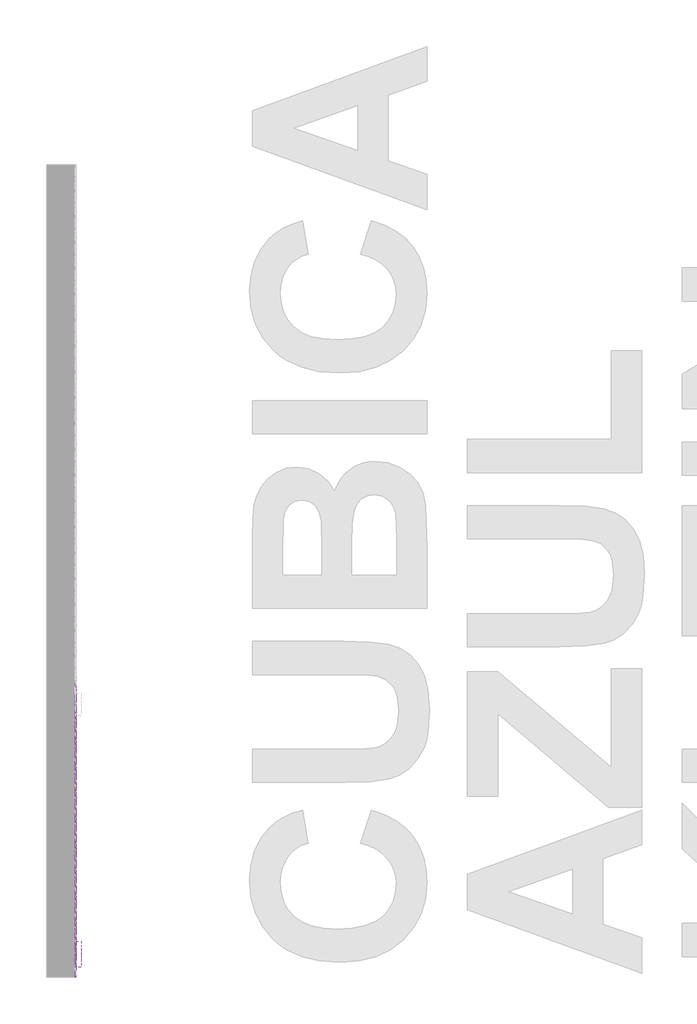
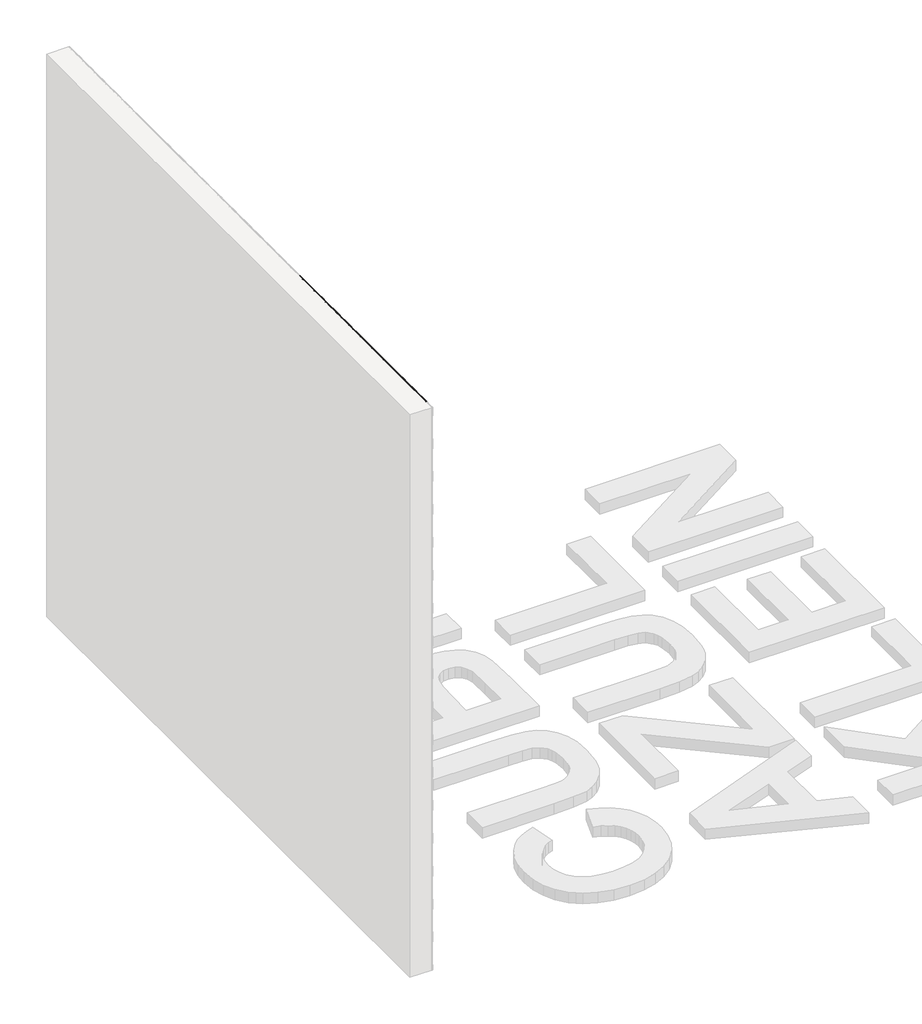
# One storey, part 33 of 121: 128 proxies.
"""IFC4 building model written with IfcOpenShell, lengths in millimetres."""

from ifc_helpers import new_model, si_unit, frame, origin, place, context, project, spatial, polyline, outline, extrude, transform, mapped, element, save
from components import generic_models_b2b2c5c1, generic_models_9bf73f6f, generic_models_5d175859, generic_models_65d4feed, generic_models_3c364290, generic_models_b652511d

model = new_model("IFC4")

# Units and contexts
model_context = context("Model", 3, world=origin())
ifc_project = project(units=[si_unit("LENGTHUNIT", "METRE", prefix="MILLI")], contexts=[model_context])

# Site, building, storey
site = spatial("IfcSite", under=ifc_project)
building = spatial("IfcBuilding", under=site)
storey = spatial("IfcBuildingStorey", under=building, Name="PORTOBELLO - SHOWROOM", Elevation=0.0)

# Proxies
placement = place(None, origin())
generic_models_shape = generic_models_b2b2c5c1(model_context)
element("IfcBuildingElementProxy", 1, Name="PBSHOP - CUBICA AZUL KLEIN 4,8X8,3 : CUBICA AZUL KLEIN - POSIÇÃO 01", ObjectType="PBSHOP - CUBICA AZUL KLEIN 4,8X8,3 : CUBICA AZUL KLEIN - POSIÇÃO 01", at=placement, inside=storey, context=model_context, shape_type="MappedRepresentation", body=[
    mapped(generic_models_shape, transform((150369.5341846, 1086.6189765, 39.4221668), x_axis=(0.0, 1.0, 0.0), y_axis=(0.0, 0.0, 1.0), z_axis=(1.0, 0.0, 0.0))),
])
element("IfcBuildingElementProxy", 2, Name="PBSHOP - CUBICA AZUL KLEIN 4,8X8,3 : CUBICA AZUL KLEIN - POSIÇÃO 01", ObjectType="PBSHOP - CUBICA AZUL KLEIN 4,8X8,3 : CUBICA AZUL KLEIN - POSIÇÃO 01", at=placement, inside=storey, context=model_context, shape_type="MappedRepresentation", body=[
    mapped(generic_models_shape, transform((150369.5341846, 1177.4582457, 39.4221668), x_axis=(0.0, 1.0, 0.0), y_axis=(0.0, 0.0, 1.0), z_axis=(1.0, 0.0, 0.0))),
])
element("IfcBuildingElementProxy", 3, Name="PBSHOP - CUBICA AZUL KLEIN 4,8X8,3 : CUBICA AZUL KLEIN - POSIÇÃO 01", ObjectType="PBSHOP - CUBICA AZUL KLEIN 4,8X8,3 : CUBICA AZUL KLEIN - POSIÇÃO 01", at=placement, inside=storey, context=model_context, shape_type="MappedRepresentation", body=[
    mapped(generic_models_shape, transform((150369.5341846, 1268.297515, 39.4221668), x_axis=(0.0, 1.0, 0.0), y_axis=(0.0, 0.0, 1.0), z_axis=(1.0, 0.0, 0.0))),
])
element("IfcBuildingElementProxy", 4, Name="PBSHOP - CUBICA AZUL KLEIN 4,8X8,3 : CUBICA AZUL KLEIN - POSIÇÃO 01", ObjectType="PBSHOP - CUBICA AZUL KLEIN 4,8X8,3 : CUBICA AZUL KLEIN - POSIÇÃO 01", at=placement, inside=storey, context=model_context, shape_type="MappedRepresentation", body=[
    mapped(generic_models_shape, transform((150369.5341846, 1359.1367842, 39.4221668), x_axis=(0.0, 1.0, 0.0), y_axis=(0.0, 0.0, 1.0), z_axis=(1.0, 0.0, 0.0))),
])
element("IfcBuildingElementProxy", 5, Name="PBSHOP - CUBICA AZUL KLEIN 4,8X8,3 : CUBICA AZUL KLEIN - POSIÇÃO 01", ObjectType="PBSHOP - CUBICA AZUL KLEIN 4,8X8,3 : CUBICA AZUL KLEIN - POSIÇÃO 01", at=placement, inside=storey, context=model_context, shape_type="MappedRepresentation", body=[
    mapped(generic_models_shape, transform((150369.5341846, 1449.9760535, 39.4221668), x_axis=(0.0, 1.0, 0.0), y_axis=(0.0, 0.0, 1.0), z_axis=(1.0, 0.0, 0.0))),
])
element("IfcBuildingElementProxy", 6, Name="PBSHOP - CUBICA AZUL KLEIN 4,8X8,3 : CUBICA AZUL KLEIN - POSIÇÃO 01", ObjectType="PBSHOP - CUBICA AZUL KLEIN 4,8X8,3 : CUBICA AZUL KLEIN - POSIÇÃO 01", at=placement, inside=storey, context=model_context, shape_type="MappedRepresentation", body=[
    mapped(generic_models_shape, transform((150369.5341846, 1540.8153227, 39.4221668), x_axis=(0.0, 1.0, 0.0), y_axis=(0.0, 0.0, 1.0), z_axis=(1.0, 0.0, 0.0))),
])
element("IfcBuildingElementProxy", 7, Name="PBSHOP - CUBICA AZUL KLEIN 4,8X8,3 : CUBICA AZUL KLEIN - POSIÇÃO 01", ObjectType="PBSHOP - CUBICA AZUL KLEIN 4,8X8,3 : CUBICA AZUL KLEIN - POSIÇÃO 01", at=placement, inside=storey, context=model_context, shape_type="MappedRepresentation", body=[
    mapped(generic_models_shape, transform((150369.5341846, 859.5208034, 2486.3959564), x_axis=(0.0, 1.0, 0.0), y_axis=(0.0, 0.0, 1.0), z_axis=(1.0, 0.0, 0.0))),
])
element("IfcBuildingElementProxy", 8, Name="PBSHOP - CUBICA AZUL KLEIN 4,8X8,3 : CUBICA AZUL KLEIN - POSIÇÃO 01", ObjectType="PBSHOP - CUBICA AZUL KLEIN 4,8X8,3 : CUBICA AZUL KLEIN - POSIÇÃO 01", at=placement, inside=storey, context=model_context, shape_type="MappedRepresentation", body=[
    mapped(generic_models_shape, transform((150369.5341846, 950.3600726, 2486.3959564), x_axis=(0.0, 1.0, 0.0), y_axis=(0.0, 0.0, 1.0), z_axis=(1.0, 0.0, 0.0))),
])
element("IfcBuildingElementProxy", 9, Name="PBSHOP - CUBICA AZUL KLEIN 4,8X8,3 : CUBICA AZUL KLEIN - POSIÇÃO 01", ObjectType="PBSHOP - CUBICA AZUL KLEIN 4,8X8,3 : CUBICA AZUL KLEIN - POSIÇÃO 01", at=placement, inside=storey, context=model_context, shape_type="MappedRepresentation", body=[
    mapped(generic_models_shape, transform((150369.5341846, 87.3870148, 2565.3305948), x_axis=(0.0, 1.0, 0.0), y_axis=(0.0, 0.0, 1.0), z_axis=(1.0, 0.0, 0.0))),
])
element("IfcBuildingElementProxy", 10, Name="PBSHOP - CUBICA AZUL KLEIN 4,8X8,3 : CUBICA AZUL KLEIN - POSIÇÃO 01", ObjectType="PBSHOP - CUBICA AZUL KLEIN 4,8X8,3 : CUBICA AZUL KLEIN - POSIÇÃO 01", at=placement, inside=storey, context=model_context, shape_type="MappedRepresentation", body=[
    mapped(generic_models_shape, transform((150369.5341846, 178.2262841, 2565.3305948), x_axis=(0.0, 1.0, 0.0), y_axis=(0.0, 0.0, 1.0), z_axis=(1.0, 0.0, 0.0))),
])
element("IfcBuildingElementProxy", 11, Name="PBSHOP - CUBICA AZUL KLEIN 4,8X8,3 : CUBICA AZUL KLEIN - POSIÇÃO 01", ObjectType="PBSHOP - CUBICA AZUL KLEIN 4,8X8,3 : CUBICA AZUL KLEIN - POSIÇÃO 01", at=placement, inside=storey, context=model_context, shape_type="MappedRepresentation", body=[
    mapped(generic_models_shape, transform((150369.5341846, 269.0655533, 2565.3305948), x_axis=(0.0, 1.0, 0.0), y_axis=(0.0, 0.0, 1.0), z_axis=(1.0, 0.0, 0.0))),
])
element("IfcBuildingElementProxy", 12, Name="PBSHOP - CUBICA AZUL KLEIN 4,8X8,3 : CUBICA AZUL KLEIN - POSIÇÃO 01", ObjectType="PBSHOP - CUBICA AZUL KLEIN 4,8X8,3 : CUBICA AZUL KLEIN - POSIÇÃO 01", at=placement, inside=storey, context=model_context, shape_type="MappedRepresentation", body=[
    mapped(generic_models_shape, transform((150369.5341846, 359.9048225, 2565.3305948), x_axis=(0.0, 1.0, 0.0), y_axis=(0.0, 0.0, 1.0), z_axis=(1.0, 0.0, 0.0))),
])
element("IfcBuildingElementProxy", 13, Name="PBSHOP - CUBICA AZUL KLEIN 4,8X8,3 : CUBICA AZUL KLEIN - POSIÇÃO 01", ObjectType="PBSHOP - CUBICA AZUL KLEIN 4,8X8,3 : CUBICA AZUL KLEIN - POSIÇÃO 01", at=placement, inside=storey, context=model_context, shape_type="MappedRepresentation", body=[
    mapped(generic_models_shape, transform((150369.5341846, 450.7440918, 2565.3305948), x_axis=(0.0, 1.0, 0.0), y_axis=(0.0, 0.0, 1.0), z_axis=(1.0, 0.0, 0.0))),
])
element("IfcBuildingElementProxy", 14, Name="PBSHOP - CUBICA AZUL KLEIN 4,8X8,3 : CUBICA AZUL KLEIN - POSIÇÃO 01", ObjectType="PBSHOP - CUBICA AZUL KLEIN 4,8X8,3 : CUBICA AZUL KLEIN - POSIÇÃO 01", at=placement, inside=storey, context=model_context, shape_type="MappedRepresentation", body=[
    mapped(generic_models_shape, transform((150369.5341846, 541.583361, 2565.3305948), x_axis=(0.0, 1.0, 0.0), y_axis=(0.0, 0.0, 1.0), z_axis=(1.0, 0.0, 0.0))),
])
element("IfcBuildingElementProxy", 15, Name="PBSHOP - CUBICA AZUL KLEIN 4,8X8,3 : CUBICA AZUL KLEIN - POSIÇÃO 01", ObjectType="PBSHOP - CUBICA AZUL KLEIN 4,8X8,3 : CUBICA AZUL KLEIN - POSIÇÃO 01", at=placement, inside=storey, context=model_context, shape_type="MappedRepresentation", body=[
    mapped(generic_models_shape, transform((150369.5341846, 632.4226303, 2565.3305948), x_axis=(0.0, 1.0, 0.0), y_axis=(0.0, 0.0, 1.0), z_axis=(1.0, 0.0, 0.0))),
])
element("IfcBuildingElementProxy", 16, Name="PBSHOP - CUBICA AZUL KLEIN 4,8X8,3 : CUBICA AZUL KLEIN - POSIÇÃO 01", ObjectType="PBSHOP - CUBICA AZUL KLEIN 4,8X8,3 : CUBICA AZUL KLEIN - POSIÇÃO 01", at=placement, inside=storey, context=model_context, shape_type="MappedRepresentation", body=[
    mapped(generic_models_shape, transform((150369.5341846, 723.2618995, 2565.3305948), x_axis=(0.0, 1.0, 0.0), y_axis=(0.0, 0.0, 1.0), z_axis=(1.0, 0.0, 0.0))),
])
element("IfcBuildingElementProxy", 17, Name="PBSHOP - CUBICA AZUL KLEIN 4,8X8,3 : CUBICA AZUL KLEIN - POSIÇÃO 01", ObjectType="PBSHOP - CUBICA AZUL KLEIN 4,8X8,3 : CUBICA AZUL KLEIN - POSIÇÃO 01", at=placement, inside=storey, context=model_context, shape_type="MappedRepresentation", body=[
    mapped(generic_models_shape, transform((150369.5341846, 814.1011688, 2565.3305948), x_axis=(0.0, 1.0, 0.0), y_axis=(0.0, 0.0, 1.0), z_axis=(1.0, 0.0, 0.0))),
])
element("IfcBuildingElementProxy", 18, Name="PBSHOP - CUBICA AZUL KLEIN 4,8X8,3 : CUBICA AZUL KLEIN - POSIÇÃO 01", ObjectType="PBSHOP - CUBICA AZUL KLEIN 4,8X8,3 : CUBICA AZUL KLEIN - POSIÇÃO 01", at=placement, inside=storey, context=model_context, shape_type="MappedRepresentation", body=[
    mapped(generic_models_shape, transform((150369.5341846, 904.940438, 2565.3305948), x_axis=(0.0, 1.0, 0.0), y_axis=(0.0, 0.0, 1.0), z_axis=(1.0, 0.0, 0.0))),
])
element("IfcBuildingElementProxy", 19, Name="PBSHOP - CUBICA AZUL KLEIN 4,8X8,3 : CUBICA AZUL KLEIN - POSIÇÃO 01", ObjectType="PBSHOP - CUBICA AZUL KLEIN 4,8X8,3 : CUBICA AZUL KLEIN - POSIÇÃO 01", at=placement, inside=storey, context=model_context, shape_type="MappedRepresentation", body=[
    mapped(generic_models_shape, transform((150369.5341846, 995.7797073, 2565.3305948), x_axis=(0.0, 1.0, 0.0), y_axis=(0.0, 0.0, 1.0), z_axis=(1.0, 0.0, 0.0))),
])
element("IfcBuildingElementProxy", 20, Name="PBSHOP - CUBICA AZUL KLEIN 4,8X8,3 : CUBICA AZUL KLEIN - POSIÇÃO 01", ObjectType="PBSHOP - CUBICA AZUL KLEIN 4,8X8,3 : CUBICA AZUL KLEIN - POSIÇÃO 01", at=placement, inside=storey, context=model_context, shape_type="MappedRepresentation", body=[
    mapped(generic_models_shape, transform((150369.5341846, 41.9673802, 2644.2652332), x_axis=(0.0, 1.0, 0.0), y_axis=(0.0, 0.0, 1.0), z_axis=(1.0, 0.0, 0.0))),
])
element("IfcBuildingElementProxy", 21, Name="PBSHOP - CUBICA AZUL KLEIN 4,8X8,3 : CUBICA AZUL KLEIN - POSIÇÃO 01", ObjectType="PBSHOP - CUBICA AZUL KLEIN 4,8X8,3 : CUBICA AZUL KLEIN - POSIÇÃO 01", at=placement, inside=storey, context=model_context, shape_type="MappedRepresentation", body=[
    mapped(generic_models_shape, transform((150369.5341846, 132.8066494, 2644.2652332), x_axis=(0.0, 1.0, 0.0), y_axis=(0.0, 0.0, 1.0), z_axis=(1.0, 0.0, 0.0))),
])
element("IfcBuildingElementProxy", 22, Name="PBSHOP - CUBICA AZUL KLEIN 4,8X8,3 : CUBICA AZUL KLEIN - POSIÇÃO 01", ObjectType="PBSHOP - CUBICA AZUL KLEIN 4,8X8,3 : CUBICA AZUL KLEIN - POSIÇÃO 01", at=placement, inside=storey, context=model_context, shape_type="MappedRepresentation", body=[
    mapped(generic_models_shape, transform((150369.5341846, 223.6459187, 2644.2652332), x_axis=(0.0, 1.0, 0.0), y_axis=(0.0, 0.0, 1.0), z_axis=(1.0, 0.0, 0.0))),
])
element("IfcBuildingElementProxy", 23, Name="PBSHOP - CUBICA AZUL KLEIN 4,8X8,3 : CUBICA AZUL KLEIN - POSIÇÃO 01", ObjectType="PBSHOP - CUBICA AZUL KLEIN 4,8X8,3 : CUBICA AZUL KLEIN - POSIÇÃO 01", at=placement, inside=storey, context=model_context, shape_type="MappedRepresentation", body=[
    mapped(generic_models_shape, transform((150369.5341846, 314.4851879, 2644.2652332), x_axis=(0.0, 1.0, 0.0), y_axis=(0.0, 0.0, 1.0), z_axis=(1.0, 0.0, 0.0))),
])
element("IfcBuildingElementProxy", 24, Name="PBSHOP - CUBICA AZUL KLEIN 4,8X8,3 : CUBICA AZUL KLEIN - POSIÇÃO 01", ObjectType="PBSHOP - CUBICA AZUL KLEIN 4,8X8,3 : CUBICA AZUL KLEIN - POSIÇÃO 01", at=placement, inside=storey, context=model_context, shape_type="MappedRepresentation", body=[
    mapped(generic_models_shape, transform((150369.5341846, 405.3244572, 2644.2652332), x_axis=(0.0, 1.0, 0.0), y_axis=(0.0, 0.0, 1.0), z_axis=(1.0, 0.0, 0.0))),
])
element("IfcBuildingElementProxy", 25, Name="PBSHOP - CUBICA AZUL KLEIN 4,8X8,3 : CUBICA AZUL KLEIN - POSIÇÃO 01", ObjectType="PBSHOP - CUBICA AZUL KLEIN 4,8X8,3 : CUBICA AZUL KLEIN - POSIÇÃO 01", at=placement, inside=storey, context=model_context, shape_type="MappedRepresentation", body=[
    mapped(generic_models_shape, transform((150369.5341846, 496.1637264, 2644.2652332), x_axis=(0.0, 1.0, 0.0), y_axis=(0.0, 0.0, 1.0), z_axis=(1.0, 0.0, 0.0))),
])
element("IfcBuildingElementProxy", 26, Name="PBSHOP - CUBICA AZUL KLEIN 4,8X8,3 : CUBICA AZUL KLEIN - POSIÇÃO 01", ObjectType="PBSHOP - CUBICA AZUL KLEIN 4,8X8,3 : CUBICA AZUL KLEIN - POSIÇÃO 01", at=placement, inside=storey, context=model_context, shape_type="MappedRepresentation", body=[
    mapped(generic_models_shape, transform((150369.5341846, 587.0029957, 2644.2652332), x_axis=(0.0, 1.0, 0.0), y_axis=(0.0, 0.0, 1.0), z_axis=(1.0, 0.0, 0.0))),
])
element("IfcBuildingElementProxy", 27, Name="PBSHOP - CUBICA AZUL KLEIN 4,8X8,3 : CUBICA AZUL KLEIN - POSIÇÃO 01", ObjectType="PBSHOP - CUBICA AZUL KLEIN 4,8X8,3 : CUBICA AZUL KLEIN - POSIÇÃO 01", at=placement, inside=storey, context=model_context, shape_type="MappedRepresentation", body=[
    mapped(generic_models_shape, transform((150369.5341846, 677.8422649, 2644.2652332), x_axis=(0.0, 1.0, 0.0), y_axis=(0.0, 0.0, 1.0), z_axis=(1.0, 0.0, 0.0))),
])
element("IfcBuildingElementProxy", 28, Name="PBSHOP - CUBICA AZUL KLEIN 4,8X8,3 : CUBICA AZUL KLEIN - POSIÇÃO 01", ObjectType="PBSHOP - CUBICA AZUL KLEIN 4,8X8,3 : CUBICA AZUL KLEIN - POSIÇÃO 01", at=placement, inside=storey, context=model_context, shape_type="MappedRepresentation", body=[
    mapped(generic_models_shape, transform((150369.5341846, 768.6815341, 2644.2652332), x_axis=(0.0, 1.0, 0.0), y_axis=(0.0, 0.0, 1.0), z_axis=(1.0, 0.0, 0.0))),
])
element("IfcBuildingElementProxy", 29, Name="PBSHOP - CUBICA AZUL KLEIN 4,8X8,3 : CUBICA AZUL KLEIN - POSIÇÃO 01", ObjectType="PBSHOP - CUBICA AZUL KLEIN 4,8X8,3 : CUBICA AZUL KLEIN - POSIÇÃO 01", at=placement, inside=storey, context=model_context, shape_type="MappedRepresentation", body=[
    mapped(generic_models_shape, transform((150369.5341846, 859.5208034, 2644.2652332), x_axis=(0.0, 1.0, 0.0), y_axis=(0.0, 0.0, 1.0), z_axis=(1.0, 0.0, 0.0))),
])
element("IfcBuildingElementProxy", 30, Name="PBSHOP - CUBICA AZUL KLEIN 4,8X8,3 : CUBICA AZUL KLEIN - POSIÇÃO 01", ObjectType="PBSHOP - CUBICA AZUL KLEIN 4,8X8,3 : CUBICA AZUL KLEIN - POSIÇÃO 01", at=placement, inside=storey, context=model_context, shape_type="MappedRepresentation", body=[
    mapped(generic_models_shape, transform((150369.5341846, 950.3600726, 2644.2652332), x_axis=(0.0, 1.0, 0.0), y_axis=(0.0, 0.0, 1.0), z_axis=(1.0, 0.0, 0.0))),
])
generic_models_2_shape = generic_models_9bf73f6f(model_context)
element("IfcBuildingElementProxy", 31, Name="PBSHOP - CUBICA AZUL KLEIN 4,8X8,3 : CUBICA AZUL KLEIN - POSIÇÃO 03", ObjectType="PBSHOP - CUBICA AZUL KLEIN 4,8X8,3 : CUBICA AZUL KLEIN - POSIÇÃO 03", at=placement, inside=storey, context=model_context, shape_type="MappedRepresentation", body=[
    mapped(generic_models_2_shape, transform((150369.5341846, 19.259722, 2446.8874268), x_axis=(0.0, 1.0, 0.0), y_axis=(0.0, 0.0, 1.0), z_axis=(1.0, 0.0, 0.0))),
])
element("IfcBuildingElementProxy", 32, Name="PBSHOP - CUBICA AZUL KLEIN 4,8X8,3 : CUBICA AZUL KLEIN - POSIÇÃO 03", ObjectType="PBSHOP - CUBICA AZUL KLEIN 4,8X8,3 : CUBICA AZUL KLEIN - POSIÇÃO 03", at=placement, inside=storey, context=model_context, shape_type="MappedRepresentation", body=[
    mapped(generic_models_2_shape, transform((150369.5341846, 110.0989913, 2446.8874268), x_axis=(0.0, 1.0, 0.0), y_axis=(0.0, 0.0, 1.0), z_axis=(1.0, 0.0, 0.0))),
])
element("IfcBuildingElementProxy", 33, Name="PBSHOP - CUBICA AZUL KLEIN 4,8X8,3 : CUBICA AZUL KLEIN - POSIÇÃO 03", ObjectType="PBSHOP - CUBICA AZUL KLEIN 4,8X8,3 : CUBICA AZUL KLEIN - POSIÇÃO 03", at=placement, inside=storey, context=model_context, shape_type="MappedRepresentation", body=[
    mapped(generic_models_2_shape, transform((150369.5341846, 200.9382605, 2446.8874268), x_axis=(0.0, 1.0, 0.0), y_axis=(0.0, 0.0, 1.0), z_axis=(1.0, 0.0, 0.0))),
])
element("IfcBuildingElementProxy", 34, Name="PBSHOP - CUBICA AZUL KLEIN 4,8X8,3 : CUBICA AZUL KLEIN - POSIÇÃO 03", ObjectType="PBSHOP - CUBICA AZUL KLEIN 4,8X8,3 : CUBICA AZUL KLEIN - POSIÇÃO 03", at=placement, inside=storey, context=model_context, shape_type="MappedRepresentation", body=[
    mapped(generic_models_2_shape, transform((150369.5341846, 291.7775298, 2446.8874268), x_axis=(0.0, 1.0, 0.0), y_axis=(0.0, 0.0, 1.0), z_axis=(1.0, 0.0, 0.0))),
])
element("IfcBuildingElementProxy", 35, Name="PBSHOP - CUBICA AZUL KLEIN 4,8X8,3 : CUBICA AZUL KLEIN - POSIÇÃO 03", ObjectType="PBSHOP - CUBICA AZUL KLEIN 4,8X8,3 : CUBICA AZUL KLEIN - POSIÇÃO 03", at=placement, inside=storey, context=model_context, shape_type="MappedRepresentation", body=[
    mapped(generic_models_2_shape, transform((150369.5341846, 382.616799, 2446.8874268), x_axis=(0.0, 1.0, 0.0), y_axis=(0.0, 0.0, 1.0), z_axis=(1.0, 0.0, 0.0))),
])
element("IfcBuildingElementProxy", 36, Name="PBSHOP - CUBICA AZUL KLEIN 4,8X8,3 : CUBICA AZUL KLEIN - POSIÇÃO 03", ObjectType="PBSHOP - CUBICA AZUL KLEIN 4,8X8,3 : CUBICA AZUL KLEIN - POSIÇÃO 03", at=placement, inside=storey, context=model_context, shape_type="MappedRepresentation", body=[
    mapped(generic_models_2_shape, transform((150369.5341846, 473.4560683, 2446.8874268), x_axis=(0.0, 1.0, 0.0), y_axis=(0.0, 0.0, 1.0), z_axis=(1.0, 0.0, 0.0))),
])
element("IfcBuildingElementProxy", 37, Name="PBSHOP - CUBICA AZUL KLEIN 4,8X8,3 : CUBICA AZUL KLEIN - POSIÇÃO 03", ObjectType="PBSHOP - CUBICA AZUL KLEIN 4,8X8,3 : CUBICA AZUL KLEIN - POSIÇÃO 03", at=placement, inside=storey, context=model_context, shape_type="MappedRepresentation", body=[
    mapped(generic_models_2_shape, transform((150369.5341846, 564.2953375, 2446.8874268), x_axis=(0.0, 1.0, 0.0), y_axis=(0.0, 0.0, 1.0), z_axis=(1.0, 0.0, 0.0))),
])
element("IfcBuildingElementProxy", 38, Name="PBSHOP - CUBICA AZUL KLEIN 4,8X8,3 : CUBICA AZUL KLEIN - POSIÇÃO 03", ObjectType="PBSHOP - CUBICA AZUL KLEIN 4,8X8,3 : CUBICA AZUL KLEIN - POSIÇÃO 03", at=placement, inside=storey, context=model_context, shape_type="MappedRepresentation", body=[
    mapped(generic_models_2_shape, transform((150369.5341846, 655.1346068, 2446.8874268), x_axis=(0.0, 1.0, 0.0), y_axis=(0.0, 0.0, 1.0), z_axis=(1.0, 0.0, 0.0))),
])
element("IfcBuildingElementProxy", 39, Name="PBSHOP - CUBICA AZUL KLEIN 4,8X8,3 : CUBICA AZUL KLEIN - POSIÇÃO 03", ObjectType="PBSHOP - CUBICA AZUL KLEIN 4,8X8,3 : CUBICA AZUL KLEIN - POSIÇÃO 03", at=placement, inside=storey, context=model_context, shape_type="MappedRepresentation", body=[
    mapped(generic_models_2_shape, transform((150369.5341846, 745.973876, 2446.8874268), x_axis=(0.0, 1.0, 0.0), y_axis=(0.0, 0.0, 1.0), z_axis=(1.0, 0.0, 0.0))),
])
element("IfcBuildingElementProxy", 40, Name="PBSHOP - CUBICA AZUL KLEIN 4,8X8,3 : CUBICA AZUL KLEIN - POSIÇÃO 03", ObjectType="PBSHOP - CUBICA AZUL KLEIN 4,8X8,3 : CUBICA AZUL KLEIN - POSIÇÃO 03", at=placement, inside=storey, context=model_context, shape_type="MappedRepresentation", body=[
    mapped(generic_models_2_shape, transform((150369.5341846, 836.8131452, 2446.8874268), x_axis=(0.0, 1.0, 0.0), y_axis=(0.0, 0.0, 1.0), z_axis=(1.0, 0.0, 0.0))),
])
element("IfcBuildingElementProxy", 41, Name="PBSHOP - CUBICA AZUL KLEIN 4,8X8,3 : CUBICA AZUL KLEIN - POSIÇÃO 03", ObjectType="PBSHOP - CUBICA AZUL KLEIN 4,8X8,3 : CUBICA AZUL KLEIN - POSIÇÃO 03", at=placement, inside=storey, context=model_context, shape_type="MappedRepresentation", body=[
    mapped(generic_models_2_shape, transform((150369.5341846, 927.6524145, 2446.8874268), x_axis=(0.0, 1.0, 0.0), y_axis=(0.0, 0.0, 1.0), z_axis=(1.0, 0.0, 0.0))),
])
element("IfcBuildingElementProxy", 42, Name="PBSHOP - CUBICA AZUL KLEIN 4,8X8,3 : CUBICA AZUL KLEIN - POSIÇÃO 03", ObjectType="PBSHOP - CUBICA AZUL KLEIN 4,8X8,3 : CUBICA AZUL KLEIN - POSIÇÃO 03", at=placement, inside=storey, context=model_context, shape_type="MappedRepresentation", body=[
    mapped(generic_models_2_shape, transform((150369.5341846, 64.6793567, 2525.8220652), x_axis=(0.0, 1.0, 0.0), y_axis=(0.0, 0.0, 1.0), z_axis=(1.0, 0.0, 0.0))),
])
element("IfcBuildingElementProxy", 43, Name="PBSHOP - CUBICA AZUL KLEIN 4,8X8,3 : CUBICA AZUL KLEIN - POSIÇÃO 03", ObjectType="PBSHOP - CUBICA AZUL KLEIN 4,8X8,3 : CUBICA AZUL KLEIN - POSIÇÃO 03", at=placement, inside=storey, context=model_context, shape_type="MappedRepresentation", body=[
    mapped(generic_models_2_shape, transform((150369.5341846, 155.5186259, 2525.8220652), x_axis=(0.0, 1.0, 0.0), y_axis=(0.0, 0.0, 1.0), z_axis=(1.0, 0.0, 0.0))),
])
element("IfcBuildingElementProxy", 44, Name="PBSHOP - CUBICA AZUL KLEIN 4,8X8,3 : CUBICA AZUL KLEIN - POSIÇÃO 03", ObjectType="PBSHOP - CUBICA AZUL KLEIN 4,8X8,3 : CUBICA AZUL KLEIN - POSIÇÃO 03", at=placement, inside=storey, context=model_context, shape_type="MappedRepresentation", body=[
    mapped(generic_models_2_shape, transform((150369.5341846, 246.3578952, 2525.8220652), x_axis=(0.0, 1.0, 0.0), y_axis=(0.0, 0.0, 1.0), z_axis=(1.0, 0.0, 0.0))),
])
element("IfcBuildingElementProxy", 45, Name="PBSHOP - CUBICA AZUL KLEIN 4,8X8,3 : CUBICA AZUL KLEIN - POSIÇÃO 03", ObjectType="PBSHOP - CUBICA AZUL KLEIN 4,8X8,3 : CUBICA AZUL KLEIN - POSIÇÃO 03", at=placement, inside=storey, context=model_context, shape_type="MappedRepresentation", body=[
    mapped(generic_models_2_shape, transform((150369.5341846, 337.1971644, 2525.8220652), x_axis=(0.0, 1.0, 0.0), y_axis=(0.0, 0.0, 1.0), z_axis=(1.0, 0.0, 0.0))),
])
element("IfcBuildingElementProxy", 46, Name="PBSHOP - CUBICA AZUL KLEIN 4,8X8,3 : CUBICA AZUL KLEIN - POSIÇÃO 03", ObjectType="PBSHOP - CUBICA AZUL KLEIN 4,8X8,3 : CUBICA AZUL KLEIN - POSIÇÃO 03", at=placement, inside=storey, context=model_context, shape_type="MappedRepresentation", body=[
    mapped(generic_models_2_shape, transform((150369.5341846, 428.0364336, 2525.8220652), x_axis=(0.0, 1.0, 0.0), y_axis=(0.0, 0.0, 1.0), z_axis=(1.0, 0.0, 0.0))),
])
element("IfcBuildingElementProxy", 47, Name="PBSHOP - CUBICA AZUL KLEIN 4,8X8,3 : CUBICA AZUL KLEIN - POSIÇÃO 03", ObjectType="PBSHOP - CUBICA AZUL KLEIN 4,8X8,3 : CUBICA AZUL KLEIN - POSIÇÃO 03", at=placement, inside=storey, context=model_context, shape_type="MappedRepresentation", body=[
    mapped(generic_models_2_shape, transform((150369.5341846, 518.8757029, 2525.8220652), x_axis=(0.0, 1.0, 0.0), y_axis=(0.0, 0.0, 1.0), z_axis=(1.0, 0.0, 0.0))),
])
element("IfcBuildingElementProxy", 48, Name="PBSHOP - CUBICA AZUL KLEIN 4,8X8,3 : CUBICA AZUL KLEIN - POSIÇÃO 03", ObjectType="PBSHOP - CUBICA AZUL KLEIN 4,8X8,3 : CUBICA AZUL KLEIN - POSIÇÃO 03", at=placement, inside=storey, context=model_context, shape_type="MappedRepresentation", body=[
    mapped(generic_models_2_shape, transform((150369.5341846, 609.7149721, 2525.8220652), x_axis=(0.0, 1.0, 0.0), y_axis=(0.0, 0.0, 1.0), z_axis=(1.0, 0.0, 0.0))),
])
element("IfcBuildingElementProxy", 49, Name="PBSHOP - CUBICA AZUL KLEIN 4,8X8,3 : CUBICA AZUL KLEIN - POSIÇÃO 03", ObjectType="PBSHOP - CUBICA AZUL KLEIN 4,8X8,3 : CUBICA AZUL KLEIN - POSIÇÃO 03", at=placement, inside=storey, context=model_context, shape_type="MappedRepresentation", body=[
    mapped(generic_models_2_shape, transform((150369.5341846, 700.5542414, 2525.8220652), x_axis=(0.0, 1.0, 0.0), y_axis=(0.0, 0.0, 1.0), z_axis=(1.0, 0.0, 0.0))),
])
element("IfcBuildingElementProxy", 50, Name="PBSHOP - CUBICA AZUL KLEIN 4,8X8,3 : CUBICA AZUL KLEIN - POSIÇÃO 03", ObjectType="PBSHOP - CUBICA AZUL KLEIN 4,8X8,3 : CUBICA AZUL KLEIN - POSIÇÃO 03", at=placement, inside=storey, context=model_context, shape_type="MappedRepresentation", body=[
    mapped(generic_models_2_shape, transform((150369.5341846, 791.3935106, 2525.8220652), x_axis=(0.0, 1.0, 0.0), y_axis=(0.0, 0.0, 1.0), z_axis=(1.0, 0.0, 0.0))),
])
element("IfcBuildingElementProxy", 51, Name="PBSHOP - CUBICA AZUL KLEIN 4,8X8,3 : CUBICA AZUL KLEIN - POSIÇÃO 03", ObjectType="PBSHOP - CUBICA AZUL KLEIN 4,8X8,3 : CUBICA AZUL KLEIN - POSIÇÃO 03", at=placement, inside=storey, context=model_context, shape_type="MappedRepresentation", body=[
    mapped(generic_models_2_shape, transform((150369.5341846, 882.2327799, 2525.8220652), x_axis=(0.0, 1.0, 0.0), y_axis=(0.0, 0.0, 1.0), z_axis=(1.0, 0.0, 0.0))),
])
element("IfcBuildingElementProxy", 52, Name="PBSHOP - CUBICA AZUL KLEIN 4,8X8,3 : CUBICA AZUL KLEIN - POSIÇÃO 03", ObjectType="PBSHOP - CUBICA AZUL KLEIN 4,8X8,3 : CUBICA AZUL KLEIN - POSIÇÃO 03", at=placement, inside=storey, context=model_context, shape_type="MappedRepresentation", body=[
    mapped(generic_models_2_shape, transform((150369.5341846, 973.0720491, 2525.8220652), x_axis=(0.0, 1.0, 0.0), y_axis=(0.0, 0.0, 1.0), z_axis=(1.0, 0.0, 0.0))),
])
element("IfcBuildingElementProxy", 53, Name="PBSHOP - CUBICA AZUL KLEIN 4,8X8,3 : CUBICA AZUL KLEIN - POSIÇÃO 03", ObjectType="PBSHOP - CUBICA AZUL KLEIN 4,8X8,3 : CUBICA AZUL KLEIN - POSIÇÃO 03", at=placement, inside=storey, context=model_context, shape_type="MappedRepresentation", body=[
    mapped(generic_models_2_shape, transform((150369.5341846, 19.259722, 2604.7567035), x_axis=(0.0, 1.0, 0.0), y_axis=(0.0, 0.0, 1.0), z_axis=(1.0, 0.0, 0.0))),
])
element("IfcBuildingElementProxy", 54, Name="PBSHOP - CUBICA AZUL KLEIN 4,8X8,3 : CUBICA AZUL KLEIN - POSIÇÃO 03", ObjectType="PBSHOP - CUBICA AZUL KLEIN 4,8X8,3 : CUBICA AZUL KLEIN - POSIÇÃO 03", at=placement, inside=storey, context=model_context, shape_type="MappedRepresentation", body=[
    mapped(generic_models_2_shape, transform((150369.5341846, 110.0989913, 2604.7567035), x_axis=(0.0, 1.0, 0.0), y_axis=(0.0, 0.0, 1.0), z_axis=(1.0, 0.0, 0.0))),
])
element("IfcBuildingElementProxy", 55, Name="PBSHOP - CUBICA AZUL KLEIN 4,8X8,3 : CUBICA AZUL KLEIN - POSIÇÃO 03", ObjectType="PBSHOP - CUBICA AZUL KLEIN 4,8X8,3 : CUBICA AZUL KLEIN - POSIÇÃO 03", at=placement, inside=storey, context=model_context, shape_type="MappedRepresentation", body=[
    mapped(generic_models_2_shape, transform((150369.5341846, 200.9382605, 2604.7567035), x_axis=(0.0, 1.0, 0.0), y_axis=(0.0, 0.0, 1.0), z_axis=(1.0, 0.0, 0.0))),
])
element("IfcBuildingElementProxy", 56, Name="PBSHOP - CUBICA AZUL KLEIN 4,8X8,3 : CUBICA AZUL KLEIN - POSIÇÃO 03", ObjectType="PBSHOP - CUBICA AZUL KLEIN 4,8X8,3 : CUBICA AZUL KLEIN - POSIÇÃO 03", at=placement, inside=storey, context=model_context, shape_type="MappedRepresentation", body=[
    mapped(generic_models_2_shape, transform((150369.5341846, 291.7775298, 2604.7567035), x_axis=(0.0, 1.0, 0.0), y_axis=(0.0, 0.0, 1.0), z_axis=(1.0, 0.0, 0.0))),
])
element("IfcBuildingElementProxy", 57, Name="PBSHOP - CUBICA AZUL KLEIN 4,8X8,3 : CUBICA AZUL KLEIN - POSIÇÃO 03", ObjectType="PBSHOP - CUBICA AZUL KLEIN 4,8X8,3 : CUBICA AZUL KLEIN - POSIÇÃO 03", at=placement, inside=storey, context=model_context, shape_type="MappedRepresentation", body=[
    mapped(generic_models_2_shape, transform((150369.5341846, 382.616799, 2604.7567035), x_axis=(0.0, 1.0, 0.0), y_axis=(0.0, 0.0, 1.0), z_axis=(1.0, 0.0, 0.0))),
])
element("IfcBuildingElementProxy", 58, Name="PBSHOP - CUBICA AZUL KLEIN 4,8X8,3 : CUBICA AZUL KLEIN - POSIÇÃO 03", ObjectType="PBSHOP - CUBICA AZUL KLEIN 4,8X8,3 : CUBICA AZUL KLEIN - POSIÇÃO 03", at=placement, inside=storey, context=model_context, shape_type="MappedRepresentation", body=[
    mapped(generic_models_2_shape, transform((150369.5341846, 473.4560683, 2604.7567035), x_axis=(0.0, 1.0, 0.0), y_axis=(0.0, 0.0, 1.0), z_axis=(1.0, 0.0, 0.0))),
])
element("IfcBuildingElementProxy", 59, Name="PBSHOP - CUBICA AZUL KLEIN 4,8X8,3 : CUBICA AZUL KLEIN - POSIÇÃO 03", ObjectType="PBSHOP - CUBICA AZUL KLEIN 4,8X8,3 : CUBICA AZUL KLEIN - POSIÇÃO 03", at=placement, inside=storey, context=model_context, shape_type="MappedRepresentation", body=[
    mapped(generic_models_2_shape, transform((150369.5341846, 564.2953375, 2604.7567035), x_axis=(0.0, 1.0, 0.0), y_axis=(0.0, 0.0, 1.0), z_axis=(1.0, 0.0, 0.0))),
])
element("IfcBuildingElementProxy", 60, Name="PBSHOP - CUBICA AZUL KLEIN 4,8X8,3 : CUBICA AZUL KLEIN - POSIÇÃO 03", ObjectType="PBSHOP - CUBICA AZUL KLEIN 4,8X8,3 : CUBICA AZUL KLEIN - POSIÇÃO 03", at=placement, inside=storey, context=model_context, shape_type="MappedRepresentation", body=[
    mapped(generic_models_2_shape, transform((150369.5341846, 655.1346068, 2604.7567035), x_axis=(0.0, 1.0, 0.0), y_axis=(0.0, 0.0, 1.0), z_axis=(1.0, 0.0, 0.0))),
])
element("IfcBuildingElementProxy", 61, Name="PBSHOP - CUBICA AZUL KLEIN 4,8X8,3 : CUBICA AZUL KLEIN - POSIÇÃO 03", ObjectType="PBSHOP - CUBICA AZUL KLEIN 4,8X8,3 : CUBICA AZUL KLEIN - POSIÇÃO 03", at=placement, inside=storey, context=model_context, shape_type="MappedRepresentation", body=[
    mapped(generic_models_2_shape, transform((150369.5341846, 745.973876, 2604.7567035), x_axis=(0.0, 1.0, 0.0), y_axis=(0.0, 0.0, 1.0), z_axis=(1.0, 0.0, 0.0))),
])
element("IfcBuildingElementProxy", 62, Name="PBSHOP - CUBICA AZUL KLEIN 4,8X8,3 : CUBICA AZUL KLEIN - POSIÇÃO 03", ObjectType="PBSHOP - CUBICA AZUL KLEIN 4,8X8,3 : CUBICA AZUL KLEIN - POSIÇÃO 03", at=placement, inside=storey, context=model_context, shape_type="MappedRepresentation", body=[
    mapped(generic_models_2_shape, transform((150369.5341846, 836.8131452, 2604.7567035), x_axis=(0.0, 1.0, 0.0), y_axis=(0.0, 0.0, 1.0), z_axis=(1.0, 0.0, 0.0))),
])
element("IfcBuildingElementProxy", 63, Name="PBSHOP - CUBICA AZUL KLEIN 4,8X8,3 : CUBICA AZUL KLEIN - POSIÇÃO 03", ObjectType="PBSHOP - CUBICA AZUL KLEIN 4,8X8,3 : CUBICA AZUL KLEIN - POSIÇÃO 03", at=placement, inside=storey, context=model_context, shape_type="MappedRepresentation", body=[
    mapped(generic_models_2_shape, transform((150369.5341846, 927.6524145, 2604.7567035), x_axis=(0.0, 1.0, 0.0), y_axis=(0.0, 0.0, 1.0), z_axis=(1.0, 0.0, 0.0))),
])
generic_models_3_shape = generic_models_5d175859(model_context)
element("IfcBuildingElementProxy", 64, Name="PBSHOP - CUBICA AZUL KLEIN 4,8X8,3 : CUBICA AZUL KLEIN - POSIÇÃO 01", ObjectType="PBSHOP - CUBICA AZUL KLEIN 4,8X8,3 : CUBICA AZUL KLEIN - POSIÇÃO 01", at=placement, inside=storey, context=model_context, shape_type="MappedRepresentation", body=[
    mapped(generic_models_3_shape, transform((150369.5341846, 1041.2036602, 39.4221668), x_axis=(0.0, -1.0, 0.0), y_axis=(0.0, 0.0, -1.0), z_axis=(1.0, 0.0, 0.0))),
])
element("IfcBuildingElementProxy", 65, Name="PBSHOP - CUBICA AZUL KLEIN 4,8X8,3 : CUBICA AZUL KLEIN - POSIÇÃO 01", ObjectType="PBSHOP - CUBICA AZUL KLEIN 4,8X8,3 : CUBICA AZUL KLEIN - POSIÇÃO 01", at=placement, inside=storey, context=model_context, shape_type="MappedRepresentation", body=[
    mapped(generic_models_3_shape, transform((150369.5341846, 1132.0429295, 39.4221668), x_axis=(0.0, -1.0, 0.0), y_axis=(0.0, 0.0, -1.0), z_axis=(1.0, 0.0, 0.0))),
])
element("IfcBuildingElementProxy", 66, Name="PBSHOP - CUBICA AZUL KLEIN 4,8X8,3 : CUBICA AZUL KLEIN - POSIÇÃO 01", ObjectType="PBSHOP - CUBICA AZUL KLEIN 4,8X8,3 : CUBICA AZUL KLEIN - POSIÇÃO 01", at=placement, inside=storey, context=model_context, shape_type="MappedRepresentation", body=[
    mapped(generic_models_3_shape, transform((150369.5341846, 1222.8821987, 39.4221668), x_axis=(0.0, -1.0, 0.0), y_axis=(0.0, 0.0, -1.0), z_axis=(1.0, 0.0, 0.0))),
])
element("IfcBuildingElementProxy", 67, Name="PBSHOP - CUBICA AZUL KLEIN 4,8X8,3 : CUBICA AZUL KLEIN - POSIÇÃO 01", ObjectType="PBSHOP - CUBICA AZUL KLEIN 4,8X8,3 : CUBICA AZUL KLEIN - POSIÇÃO 01", at=placement, inside=storey, context=model_context, shape_type="MappedRepresentation", body=[
    mapped(generic_models_3_shape, transform((150369.5341846, 1313.7214679, 39.4221668), x_axis=(0.0, -1.0, 0.0), y_axis=(0.0, 0.0, -1.0), z_axis=(1.0, 0.0, 0.0))),
])
element("IfcBuildingElementProxy", 68, Name="PBSHOP - CUBICA AZUL KLEIN 4,8X8,3 : CUBICA AZUL KLEIN - POSIÇÃO 01", ObjectType="PBSHOP - CUBICA AZUL KLEIN 4,8X8,3 : CUBICA AZUL KLEIN - POSIÇÃO 01", at=placement, inside=storey, context=model_context, shape_type="MappedRepresentation", body=[
    mapped(generic_models_3_shape, transform((150369.5341846, 1404.5607372, 39.4221668), x_axis=(0.0, -1.0, 0.0), y_axis=(0.0, 0.0, -1.0), z_axis=(1.0, 0.0, 0.0))),
])
element("IfcBuildingElementProxy", 69, Name="PBSHOP - CUBICA AZUL KLEIN 4,8X8,3 : CUBICA AZUL KLEIN - POSIÇÃO 01", ObjectType="PBSHOP - CUBICA AZUL KLEIN 4,8X8,3 : CUBICA AZUL KLEIN - POSIÇÃO 01", at=placement, inside=storey, context=model_context, shape_type="MappedRepresentation", body=[
    mapped(generic_models_3_shape, transform((150369.5341846, 1495.4000064, 39.4221668), x_axis=(0.0, -1.0, 0.0), y_axis=(0.0, 0.0, -1.0), z_axis=(1.0, 0.0, 0.0))),
])
element("IfcBuildingElementProxy", 70, Name="PBSHOP - CUBICA AZUL KLEIN 4,8X8,3 : CUBICA AZUL KLEIN - POSIÇÃO 01", ObjectType="PBSHOP - CUBICA AZUL KLEIN 4,8X8,3 : CUBICA AZUL KLEIN - POSIÇÃO 01", at=placement, inside=storey, context=model_context, shape_type="MappedRepresentation", body=[
    mapped(generic_models_3_shape, transform((150369.5341846, 814.1054871, 2486.3959564), x_axis=(0.0, -1.0, 0.0), y_axis=(0.0, 0.0, -1.0), z_axis=(1.0, 0.0, 0.0))),
])
element("IfcBuildingElementProxy", 71, Name="PBSHOP - CUBICA AZUL KLEIN 4,8X8,3 : CUBICA AZUL KLEIN - POSIÇÃO 01", ObjectType="PBSHOP - CUBICA AZUL KLEIN 4,8X8,3 : CUBICA AZUL KLEIN - POSIÇÃO 01", at=placement, inside=storey, context=model_context, shape_type="MappedRepresentation", body=[
    mapped(generic_models_3_shape, transform((150369.5341846, 904.9447563, 2486.3959564), x_axis=(0.0, -1.0, 0.0), y_axis=(0.0, 0.0, -1.0), z_axis=(1.0, 0.0, 0.0))),
])
element("IfcBuildingElementProxy", 72, Name="PBSHOP - CUBICA AZUL KLEIN 4,8X8,3 : CUBICA AZUL KLEIN - POSIÇÃO 01", ObjectType="PBSHOP - CUBICA AZUL KLEIN 4,8X8,3 : CUBICA AZUL KLEIN - POSIÇÃO 01", at=placement, inside=storey, context=model_context, shape_type="MappedRepresentation", body=[
    mapped(generic_models_3_shape, transform((150369.5341846, 995.7840256, 2486.3959564), x_axis=(0.0, -1.0, 0.0), y_axis=(0.0, 0.0, -1.0), z_axis=(1.0, 0.0, 0.0))),
])
element("IfcBuildingElementProxy", 73, Name="PBSHOP - CUBICA AZUL KLEIN 4,8X8,3 : CUBICA AZUL KLEIN - POSIÇÃO 01", ObjectType="PBSHOP - CUBICA AZUL KLEIN 4,8X8,3 : CUBICA AZUL KLEIN - POSIÇÃO 01", at=placement, inside=storey, context=model_context, shape_type="MappedRepresentation", body=[
    mapped(generic_models_3_shape, transform((150369.5341846, 41.9716985, 2565.3305948), x_axis=(0.0, -1.0, 0.0), y_axis=(0.0, 0.0, -1.0), z_axis=(1.0, 0.0, 0.0))),
])
element("IfcBuildingElementProxy", 74, Name="PBSHOP - CUBICA AZUL KLEIN 4,8X8,3 : CUBICA AZUL KLEIN - POSIÇÃO 01", ObjectType="PBSHOP - CUBICA AZUL KLEIN 4,8X8,3 : CUBICA AZUL KLEIN - POSIÇÃO 01", at=placement, inside=storey, context=model_context, shape_type="MappedRepresentation", body=[
    mapped(generic_models_3_shape, transform((150369.5341846, 132.8109678, 2565.3305948), x_axis=(0.0, -1.0, 0.0), y_axis=(0.0, 0.0, -1.0), z_axis=(1.0, 0.0, 0.0))),
])
element("IfcBuildingElementProxy", 75, Name="PBSHOP - CUBICA AZUL KLEIN 4,8X8,3 : CUBICA AZUL KLEIN - POSIÇÃO 01", ObjectType="PBSHOP - CUBICA AZUL KLEIN 4,8X8,3 : CUBICA AZUL KLEIN - POSIÇÃO 01", at=placement, inside=storey, context=model_context, shape_type="MappedRepresentation", body=[
    mapped(generic_models_3_shape, transform((150369.5341846, 223.650237, 2565.3305948), x_axis=(0.0, -1.0, 0.0), y_axis=(0.0, 0.0, -1.0), z_axis=(1.0, 0.0, 0.0))),
])
element("IfcBuildingElementProxy", 76, Name="PBSHOP - CUBICA AZUL KLEIN 4,8X8,3 : CUBICA AZUL KLEIN - POSIÇÃO 01", ObjectType="PBSHOP - CUBICA AZUL KLEIN 4,8X8,3 : CUBICA AZUL KLEIN - POSIÇÃO 01", at=placement, inside=storey, context=model_context, shape_type="MappedRepresentation", body=[
    mapped(generic_models_3_shape, transform((150369.5341846, 314.4895063, 2565.3305948), x_axis=(0.0, -1.0, 0.0), y_axis=(0.0, 0.0, -1.0), z_axis=(1.0, 0.0, 0.0))),
])
element("IfcBuildingElementProxy", 77, Name="PBSHOP - CUBICA AZUL KLEIN 4,8X8,3 : CUBICA AZUL KLEIN - POSIÇÃO 01", ObjectType="PBSHOP - CUBICA AZUL KLEIN 4,8X8,3 : CUBICA AZUL KLEIN - POSIÇÃO 01", at=placement, inside=storey, context=model_context, shape_type="MappedRepresentation", body=[
    mapped(generic_models_3_shape, transform((150369.5341846, 405.3287755, 2565.3305948), x_axis=(0.0, -1.0, 0.0), y_axis=(0.0, 0.0, -1.0), z_axis=(1.0, 0.0, 0.0))),
])
element("IfcBuildingElementProxy", 78, Name="PBSHOP - CUBICA AZUL KLEIN 4,8X8,3 : CUBICA AZUL KLEIN - POSIÇÃO 01", ObjectType="PBSHOP - CUBICA AZUL KLEIN 4,8X8,3 : CUBICA AZUL KLEIN - POSIÇÃO 01", at=placement, inside=storey, context=model_context, shape_type="MappedRepresentation", body=[
    mapped(generic_models_3_shape, transform((150369.5341846, 496.1680447, 2565.3305948), x_axis=(0.0, -1.0, 0.0), y_axis=(0.0, 0.0, -1.0), z_axis=(1.0, 0.0, 0.0))),
])
element("IfcBuildingElementProxy", 79, Name="PBSHOP - CUBICA AZUL KLEIN 4,8X8,3 : CUBICA AZUL KLEIN - POSIÇÃO 01", ObjectType="PBSHOP - CUBICA AZUL KLEIN 4,8X8,3 : CUBICA AZUL KLEIN - POSIÇÃO 01", at=placement, inside=storey, context=model_context, shape_type="MappedRepresentation", body=[
    mapped(generic_models_3_shape, transform((150369.5341846, 587.007314, 2565.3305948), x_axis=(0.0, -1.0, 0.0), y_axis=(0.0, 0.0, -1.0), z_axis=(1.0, 0.0, 0.0))),
])
element("IfcBuildingElementProxy", 80, Name="PBSHOP - CUBICA AZUL KLEIN 4,8X8,3 : CUBICA AZUL KLEIN - POSIÇÃO 01", ObjectType="PBSHOP - CUBICA AZUL KLEIN 4,8X8,3 : CUBICA AZUL KLEIN - POSIÇÃO 01", at=placement, inside=storey, context=model_context, shape_type="MappedRepresentation", body=[
    mapped(generic_models_3_shape, transform((150369.5341846, 677.8465832, 2565.3305948), x_axis=(0.0, -1.0, 0.0), y_axis=(0.0, 0.0, -1.0), z_axis=(1.0, 0.0, 0.0))),
])
element("IfcBuildingElementProxy", 81, Name="PBSHOP - CUBICA AZUL KLEIN 4,8X8,3 : CUBICA AZUL KLEIN - POSIÇÃO 01", ObjectType="PBSHOP - CUBICA AZUL KLEIN 4,8X8,3 : CUBICA AZUL KLEIN - POSIÇÃO 01", at=placement, inside=storey, context=model_context, shape_type="MappedRepresentation", body=[
    mapped(generic_models_3_shape, transform((150369.5341846, 768.6858525, 2565.3305948), x_axis=(0.0, -1.0, 0.0), y_axis=(0.0, 0.0, -1.0), z_axis=(1.0, 0.0, 0.0))),
])
element("IfcBuildingElementProxy", 82, Name="PBSHOP - CUBICA AZUL KLEIN 4,8X8,3 : CUBICA AZUL KLEIN - POSIÇÃO 01", ObjectType="PBSHOP - CUBICA AZUL KLEIN 4,8X8,3 : CUBICA AZUL KLEIN - POSIÇÃO 01", at=placement, inside=storey, context=model_context, shape_type="MappedRepresentation", body=[
    mapped(generic_models_3_shape, transform((150369.5341846, 859.5251217, 2565.3305948), x_axis=(0.0, -1.0, 0.0), y_axis=(0.0, 0.0, -1.0), z_axis=(1.0, 0.0, 0.0))),
])
element("IfcBuildingElementProxy", 83, Name="PBSHOP - CUBICA AZUL KLEIN 4,8X8,3 : CUBICA AZUL KLEIN - POSIÇÃO 01", ObjectType="PBSHOP - CUBICA AZUL KLEIN 4,8X8,3 : CUBICA AZUL KLEIN - POSIÇÃO 01", at=placement, inside=storey, context=model_context, shape_type="MappedRepresentation", body=[
    mapped(generic_models_3_shape, transform((150369.5341846, 950.364391, 2565.3305948), x_axis=(0.0, -1.0, 0.0), y_axis=(0.0, 0.0, -1.0), z_axis=(1.0, 0.0, 0.0))),
])
element("IfcBuildingElementProxy", 84, Name="PBSHOP - CUBICA AZUL KLEIN 4,8X8,3 : CUBICA AZUL KLEIN - POSIÇÃO 01", ObjectType="PBSHOP - CUBICA AZUL KLEIN 4,8X8,3 : CUBICA AZUL KLEIN - POSIÇÃO 01", at=placement, inside=storey, context=model_context, shape_type="MappedRepresentation", body=[
    mapped(generic_models_3_shape, transform((150369.5341846, 87.3913331, 2644.2652332), x_axis=(0.0, -1.0, 0.0), y_axis=(0.0, 0.0, -1.0), z_axis=(1.0, 0.0, 0.0))),
])
element("IfcBuildingElementProxy", 85, Name="PBSHOP - CUBICA AZUL KLEIN 4,8X8,3 : CUBICA AZUL KLEIN - POSIÇÃO 01", ObjectType="PBSHOP - CUBICA AZUL KLEIN 4,8X8,3 : CUBICA AZUL KLEIN - POSIÇÃO 01", at=placement, inside=storey, context=model_context, shape_type="MappedRepresentation", body=[
    mapped(generic_models_3_shape, transform((150369.5341846, 178.2306024, 2644.2652332), x_axis=(0.0, -1.0, 0.0), y_axis=(0.0, 0.0, -1.0), z_axis=(1.0, 0.0, 0.0))),
])
element("IfcBuildingElementProxy", 86, Name="PBSHOP - CUBICA AZUL KLEIN 4,8X8,3 : CUBICA AZUL KLEIN - POSIÇÃO 01", ObjectType="PBSHOP - CUBICA AZUL KLEIN 4,8X8,3 : CUBICA AZUL KLEIN - POSIÇÃO 01", at=placement, inside=storey, context=model_context, shape_type="MappedRepresentation", body=[
    mapped(generic_models_3_shape, transform((150369.5341846, 269.0698716, 2644.2652332), x_axis=(0.0, -1.0, 0.0), y_axis=(0.0, 0.0, -1.0), z_axis=(1.0, 0.0, 0.0))),
])
element("IfcBuildingElementProxy", 87, Name="PBSHOP - CUBICA AZUL KLEIN 4,8X8,3 : CUBICA AZUL KLEIN - POSIÇÃO 01", ObjectType="PBSHOP - CUBICA AZUL KLEIN 4,8X8,3 : CUBICA AZUL KLEIN - POSIÇÃO 01", at=placement, inside=storey, context=model_context, shape_type="MappedRepresentation", body=[
    mapped(generic_models_3_shape, transform((150369.5341846, 359.9091409, 2644.2652332), x_axis=(0.0, -1.0, 0.0), y_axis=(0.0, 0.0, -1.0), z_axis=(1.0, 0.0, 0.0))),
])
element("IfcBuildingElementProxy", 88, Name="PBSHOP - CUBICA AZUL KLEIN 4,8X8,3 : CUBICA AZUL KLEIN - POSIÇÃO 01", ObjectType="PBSHOP - CUBICA AZUL KLEIN 4,8X8,3 : CUBICA AZUL KLEIN - POSIÇÃO 01", at=placement, inside=storey, context=model_context, shape_type="MappedRepresentation", body=[
    mapped(generic_models_3_shape, transform((150369.5341846, 450.7484101, 2644.2652332), x_axis=(0.0, -1.0, 0.0), y_axis=(0.0, 0.0, -1.0), z_axis=(1.0, 0.0, 0.0))),
])
element("IfcBuildingElementProxy", 89, Name="PBSHOP - CUBICA AZUL KLEIN 4,8X8,3 : CUBICA AZUL KLEIN - POSIÇÃO 01", ObjectType="PBSHOP - CUBICA AZUL KLEIN 4,8X8,3 : CUBICA AZUL KLEIN - POSIÇÃO 01", at=placement, inside=storey, context=model_context, shape_type="MappedRepresentation", body=[
    mapped(generic_models_3_shape, transform((150369.5341846, 541.5876794, 2644.2652332), x_axis=(0.0, -1.0, 0.0), y_axis=(0.0, 0.0, -1.0), z_axis=(1.0, 0.0, 0.0))),
])
element("IfcBuildingElementProxy", 90, Name="PBSHOP - CUBICA AZUL KLEIN 4,8X8,3 : CUBICA AZUL KLEIN - POSIÇÃO 01", ObjectType="PBSHOP - CUBICA AZUL KLEIN 4,8X8,3 : CUBICA AZUL KLEIN - POSIÇÃO 01", at=placement, inside=storey, context=model_context, shape_type="MappedRepresentation", body=[
    mapped(generic_models_3_shape, transform((150369.5341846, 632.4269486, 2644.2652332), x_axis=(0.0, -1.0, 0.0), y_axis=(0.0, 0.0, -1.0), z_axis=(1.0, 0.0, 0.0))),
])
element("IfcBuildingElementProxy", 91, Name="PBSHOP - CUBICA AZUL KLEIN 4,8X8,3 : CUBICA AZUL KLEIN - POSIÇÃO 01", ObjectType="PBSHOP - CUBICA AZUL KLEIN 4,8X8,3 : CUBICA AZUL KLEIN - POSIÇÃO 01", at=placement, inside=storey, context=model_context, shape_type="MappedRepresentation", body=[
    mapped(generic_models_3_shape, transform((150369.5341846, 723.2662179, 2644.2652332), x_axis=(0.0, -1.0, 0.0), y_axis=(0.0, 0.0, -1.0), z_axis=(1.0, 0.0, 0.0))),
])
element("IfcBuildingElementProxy", 92, Name="PBSHOP - CUBICA AZUL KLEIN 4,8X8,3 : CUBICA AZUL KLEIN - POSIÇÃO 01", ObjectType="PBSHOP - CUBICA AZUL KLEIN 4,8X8,3 : CUBICA AZUL KLEIN - POSIÇÃO 01", at=placement, inside=storey, context=model_context, shape_type="MappedRepresentation", body=[
    mapped(generic_models_3_shape, transform((150369.5341846, 814.1054871, 2644.2652332), x_axis=(0.0, -1.0, 0.0), y_axis=(0.0, 0.0, -1.0), z_axis=(1.0, 0.0, 0.0))),
])
element("IfcBuildingElementProxy", 93, Name="PBSHOP - CUBICA AZUL KLEIN 4,8X8,3 : CUBICA AZUL KLEIN - POSIÇÃO 01", ObjectType="PBSHOP - CUBICA AZUL KLEIN 4,8X8,3 : CUBICA AZUL KLEIN - POSIÇÃO 01", at=placement, inside=storey, context=model_context, shape_type="MappedRepresentation", body=[
    mapped(generic_models_3_shape, transform((150369.5341846, 904.9447563, 2644.2652332), x_axis=(0.0, -1.0, 0.0), y_axis=(0.0, 0.0, -1.0), z_axis=(1.0, 0.0, 0.0))),
])
element("IfcBuildingElementProxy", 94, Name="PBSHOP - CUBICA AZUL KLEIN 4,8X8,3 : CUBICA AZUL KLEIN - POSIÇÃO 01", ObjectType="PBSHOP - CUBICA AZUL KLEIN 4,8X8,3 : CUBICA AZUL KLEIN - POSIÇÃO 01", at=placement, inside=storey, context=model_context, shape_type="MappedRepresentation", body=[
    mapped(generic_models_3_shape, transform((150369.5341846, 995.7840256, 2644.2652332), x_axis=(0.0, -1.0, 0.0), y_axis=(0.0, 0.0, -1.0), z_axis=(1.0, 0.0, 0.0))),
])
generic_models_4_shape = generic_models_65d4feed(model_context)
element("IfcBuildingElementProxy", 95, Name="PBSHOP - CUBICA AZUL KLEIN 4,8X8,3 : CUBICA AZUL KLEIN - POSIÇÃO 01", ObjectType="PBSHOP - CUBICA AZUL KLEIN 4,8X8,3 : CUBICA AZUL KLEIN - POSIÇÃO 01", at=placement, inside=storey, context=model_context, shape_type="MappedRepresentation", body=[
    mapped(generic_models_4_shape, transform((150369.5341846, 87.3870148, 2723.1998715), x_axis=(0.0, 1.0, 0.0), y_axis=(0.0, 0.0, 1.0), z_axis=(1.0, 0.0, 0.0))),
])
element("IfcBuildingElementProxy", 96, Name="PBSHOP - CUBICA AZUL KLEIN 4,8X8,3 : CUBICA AZUL KLEIN - POSIÇÃO 01", ObjectType="PBSHOP - CUBICA AZUL KLEIN 4,8X8,3 : CUBICA AZUL KLEIN - POSIÇÃO 01", at=placement, inside=storey, context=model_context, shape_type="MappedRepresentation", body=[
    mapped(generic_models_4_shape, transform((150369.5341846, 178.2262841, 2723.1998715), x_axis=(0.0, 1.0, 0.0), y_axis=(0.0, 0.0, 1.0), z_axis=(1.0, 0.0, 0.0))),
])
element("IfcBuildingElementProxy", 97, Name="PBSHOP - CUBICA AZUL KLEIN 4,8X8,3 : CUBICA AZUL KLEIN - POSIÇÃO 01", ObjectType="PBSHOP - CUBICA AZUL KLEIN 4,8X8,3 : CUBICA AZUL KLEIN - POSIÇÃO 01", at=placement, inside=storey, context=model_context, shape_type="MappedRepresentation", body=[
    mapped(generic_models_4_shape, transform((150369.5341846, 269.0655533, 2723.1998715), x_axis=(0.0, 1.0, 0.0), y_axis=(0.0, 0.0, 1.0), z_axis=(1.0, 0.0, 0.0))),
])
element("IfcBuildingElementProxy", 98, Name="PBSHOP - CUBICA AZUL KLEIN 4,8X8,3 : CUBICA AZUL KLEIN - POSIÇÃO 01", ObjectType="PBSHOP - CUBICA AZUL KLEIN 4,8X8,3 : CUBICA AZUL KLEIN - POSIÇÃO 01", at=placement, inside=storey, context=model_context, shape_type="MappedRepresentation", body=[
    mapped(generic_models_4_shape, transform((150369.5341846, 359.9048225, 2723.1998715), x_axis=(0.0, 1.0, 0.0), y_axis=(0.0, 0.0, 1.0), z_axis=(1.0, 0.0, 0.0))),
])
element("IfcBuildingElementProxy", 99, Name="PBSHOP - CUBICA AZUL KLEIN 4,8X8,3 : CUBICA AZUL KLEIN - POSIÇÃO 01", ObjectType="PBSHOP - CUBICA AZUL KLEIN 4,8X8,3 : CUBICA AZUL KLEIN - POSIÇÃO 01", at=placement, inside=storey, context=model_context, shape_type="MappedRepresentation", body=[
    mapped(generic_models_4_shape, transform((150369.5341846, 450.7440918, 2723.1998715), x_axis=(0.0, 1.0, 0.0), y_axis=(0.0, 0.0, 1.0), z_axis=(1.0, 0.0, 0.0))),
])
element("IfcBuildingElementProxy", 100, Name="PBSHOP - CUBICA AZUL KLEIN 4,8X8,3 : CUBICA AZUL KLEIN - POSIÇÃO 01", ObjectType="PBSHOP - CUBICA AZUL KLEIN 4,8X8,3 : CUBICA AZUL KLEIN - POSIÇÃO 01", at=placement, inside=storey, context=model_context, shape_type="MappedRepresentation", body=[
    mapped(generic_models_4_shape, transform((150369.5341846, 541.583361, 2723.1998715), x_axis=(0.0, 1.0, 0.0), y_axis=(0.0, 0.0, 1.0), z_axis=(1.0, 0.0, 0.0))),
])
element("IfcBuildingElementProxy", 101, Name="PBSHOP - CUBICA AZUL KLEIN 4,8X8,3 : CUBICA AZUL KLEIN - POSIÇÃO 01", ObjectType="PBSHOP - CUBICA AZUL KLEIN 4,8X8,3 : CUBICA AZUL KLEIN - POSIÇÃO 01", at=placement, inside=storey, context=model_context, shape_type="MappedRepresentation", body=[
    mapped(generic_models_4_shape, transform((150369.5341846, 632.4226303, 2723.1998715), x_axis=(0.0, 1.0, 0.0), y_axis=(0.0, 0.0, 1.0), z_axis=(1.0, 0.0, 0.0))),
])
element("IfcBuildingElementProxy", 102, Name="PBSHOP - CUBICA AZUL KLEIN 4,8X8,3 : CUBICA AZUL KLEIN - POSIÇÃO 01", ObjectType="PBSHOP - CUBICA AZUL KLEIN 4,8X8,3 : CUBICA AZUL KLEIN - POSIÇÃO 01", at=placement, inside=storey, context=model_context, shape_type="MappedRepresentation", body=[
    mapped(generic_models_4_shape, transform((150369.5341846, 723.2618995, 2723.1998715), x_axis=(0.0, 1.0, 0.0), y_axis=(0.0, 0.0, 1.0), z_axis=(1.0, 0.0, 0.0))),
])
element("IfcBuildingElementProxy", 103, Name="PBSHOP - CUBICA AZUL KLEIN 4,8X8,3 : CUBICA AZUL KLEIN - POSIÇÃO 01", ObjectType="PBSHOP - CUBICA AZUL KLEIN 4,8X8,3 : CUBICA AZUL KLEIN - POSIÇÃO 01", at=placement, inside=storey, context=model_context, shape_type="MappedRepresentation", body=[
    mapped(generic_models_4_shape, transform((150369.5341846, 814.1011688, 2723.1998715), x_axis=(0.0, 1.0, 0.0), y_axis=(0.0, 0.0, 1.0), z_axis=(1.0, 0.0, 0.0))),
])
element("IfcBuildingElementProxy", 104, Name="PBSHOP - CUBICA AZUL KLEIN 4,8X8,3 : CUBICA AZUL KLEIN - POSIÇÃO 01", ObjectType="PBSHOP - CUBICA AZUL KLEIN 4,8X8,3 : CUBICA AZUL KLEIN - POSIÇÃO 01", at=placement, inside=storey, context=model_context, shape_type="MappedRepresentation", body=[
    mapped(generic_models_4_shape, transform((150369.5341846, 904.940438, 2723.1998715), x_axis=(0.0, 1.0, 0.0), y_axis=(0.0, 0.0, 1.0), z_axis=(1.0, 0.0, 0.0))),
])
element("IfcBuildingElementProxy", 105, Name="PBSHOP - CUBICA AZUL KLEIN 4,8X8,3 : CUBICA AZUL KLEIN - POSIÇÃO 01", ObjectType="PBSHOP - CUBICA AZUL KLEIN 4,8X8,3 : CUBICA AZUL KLEIN - POSIÇÃO 01", at=placement, inside=storey, context=model_context, shape_type="MappedRepresentation", body=[
    mapped(generic_models_4_shape, transform((150369.5341846, 995.7797073, 2723.1998715), x_axis=(0.0, 1.0, 0.0), y_axis=(0.0, 0.0, 1.0), z_axis=(1.0, 0.0, 0.0))),
])
generic_models_5_shape = generic_models_3c364290(model_context)
element("IfcBuildingElementProxy", 106, Name="PBSHOP - CUBICA AZUL KLEIN 4,8X8,3 : CUBICA AZUL KLEIN - POSIÇÃO 01", ObjectType="PBSHOP - CUBICA AZUL KLEIN 4,8X8,3 : CUBICA AZUL KLEIN - POSIÇÃO 01", at=placement, inside=storey, context=model_context, shape_type="MappedRepresentation", body=[
    mapped(generic_models_5_shape, transform((150369.5341846, 41.9716985, 2723.1998715), x_axis=(0.0, -1.0, 0.0), y_axis=(0.0, 0.0, -1.0), z_axis=(1.0, 0.0, 0.0))),
])
element("IfcBuildingElementProxy", 107, Name="PBSHOP - CUBICA AZUL KLEIN 4,8X8,3 : CUBICA AZUL KLEIN - POSIÇÃO 01", ObjectType="PBSHOP - CUBICA AZUL KLEIN 4,8X8,3 : CUBICA AZUL KLEIN - POSIÇÃO 01", at=placement, inside=storey, context=model_context, shape_type="MappedRepresentation", body=[
    mapped(generic_models_5_shape, transform((150369.5341846, 132.8109678, 2723.1998715), x_axis=(0.0, -1.0, 0.0), y_axis=(0.0, 0.0, -1.0), z_axis=(1.0, 0.0, 0.0))),
])
element("IfcBuildingElementProxy", 108, Name="PBSHOP - CUBICA AZUL KLEIN 4,8X8,3 : CUBICA AZUL KLEIN - POSIÇÃO 01", ObjectType="PBSHOP - CUBICA AZUL KLEIN 4,8X8,3 : CUBICA AZUL KLEIN - POSIÇÃO 01", at=placement, inside=storey, context=model_context, shape_type="MappedRepresentation", body=[
    mapped(generic_models_5_shape, transform((150369.5341846, 223.650237, 2723.1998715), x_axis=(0.0, -1.0, 0.0), y_axis=(0.0, 0.0, -1.0), z_axis=(1.0, 0.0, 0.0))),
])
element("IfcBuildingElementProxy", 109, Name="PBSHOP - CUBICA AZUL KLEIN 4,8X8,3 : CUBICA AZUL KLEIN - POSIÇÃO 01", ObjectType="PBSHOP - CUBICA AZUL KLEIN 4,8X8,3 : CUBICA AZUL KLEIN - POSIÇÃO 01", at=placement, inside=storey, context=model_context, shape_type="MappedRepresentation", body=[
    mapped(generic_models_5_shape, transform((150369.5341846, 314.4895063, 2723.1998715), x_axis=(0.0, -1.0, 0.0), y_axis=(0.0, 0.0, -1.0), z_axis=(1.0, 0.0, 0.0))),
])
element("IfcBuildingElementProxy", 110, Name="PBSHOP - CUBICA AZUL KLEIN 4,8X8,3 : CUBICA AZUL KLEIN - POSIÇÃO 01", ObjectType="PBSHOP - CUBICA AZUL KLEIN 4,8X8,3 : CUBICA AZUL KLEIN - POSIÇÃO 01", at=placement, inside=storey, context=model_context, shape_type="MappedRepresentation", body=[
    mapped(generic_models_5_shape, transform((150369.5341846, 405.3287755, 2723.1998715), x_axis=(0.0, -1.0, 0.0), y_axis=(0.0, 0.0, -1.0), z_axis=(1.0, 0.0, 0.0))),
])
element("IfcBuildingElementProxy", 111, Name="PBSHOP - CUBICA AZUL KLEIN 4,8X8,3 : CUBICA AZUL KLEIN - POSIÇÃO 01", ObjectType="PBSHOP - CUBICA AZUL KLEIN 4,8X8,3 : CUBICA AZUL KLEIN - POSIÇÃO 01", at=placement, inside=storey, context=model_context, shape_type="MappedRepresentation", body=[
    mapped(generic_models_5_shape, transform((150369.5341846, 496.1680447, 2723.1998715), x_axis=(0.0, -1.0, 0.0), y_axis=(0.0, 0.0, -1.0), z_axis=(1.0, 0.0, 0.0))),
])
element("IfcBuildingElementProxy", 112, Name="PBSHOP - CUBICA AZUL KLEIN 4,8X8,3 : CUBICA AZUL KLEIN - POSIÇÃO 01", ObjectType="PBSHOP - CUBICA AZUL KLEIN 4,8X8,3 : CUBICA AZUL KLEIN - POSIÇÃO 01", at=placement, inside=storey, context=model_context, shape_type="MappedRepresentation", body=[
    mapped(generic_models_5_shape, transform((150369.5341846, 587.007314, 2723.1998715), x_axis=(0.0, -1.0, 0.0), y_axis=(0.0, 0.0, -1.0), z_axis=(1.0, 0.0, 0.0))),
])
element("IfcBuildingElementProxy", 113, Name="PBSHOP - CUBICA AZUL KLEIN 4,8X8,3 : CUBICA AZUL KLEIN - POSIÇÃO 01", ObjectType="PBSHOP - CUBICA AZUL KLEIN 4,8X8,3 : CUBICA AZUL KLEIN - POSIÇÃO 01", at=placement, inside=storey, context=model_context, shape_type="MappedRepresentation", body=[
    mapped(generic_models_5_shape, transform((150369.5341846, 677.8465832, 2723.1998715), x_axis=(0.0, -1.0, 0.0), y_axis=(0.0, 0.0, -1.0), z_axis=(1.0, 0.0, 0.0))),
])
element("IfcBuildingElementProxy", 114, Name="PBSHOP - CUBICA AZUL KLEIN 4,8X8,3 : CUBICA AZUL KLEIN - POSIÇÃO 01", ObjectType="PBSHOP - CUBICA AZUL KLEIN 4,8X8,3 : CUBICA AZUL KLEIN - POSIÇÃO 01", at=placement, inside=storey, context=model_context, shape_type="MappedRepresentation", body=[
    mapped(generic_models_5_shape, transform((150369.5341846, 768.6858525, 2723.1998715), x_axis=(0.0, -1.0, 0.0), y_axis=(0.0, 0.0, -1.0), z_axis=(1.0, 0.0, 0.0))),
])
element("IfcBuildingElementProxy", 115, Name="PBSHOP - CUBICA AZUL KLEIN 4,8X8,3 : CUBICA AZUL KLEIN - POSIÇÃO 01", ObjectType="PBSHOP - CUBICA AZUL KLEIN 4,8X8,3 : CUBICA AZUL KLEIN - POSIÇÃO 01", at=placement, inside=storey, context=model_context, shape_type="MappedRepresentation", body=[
    mapped(generic_models_5_shape, transform((150369.5341846, 859.5251217, 2723.1998715), x_axis=(0.0, -1.0, 0.0), y_axis=(0.0, 0.0, -1.0), z_axis=(1.0, 0.0, 0.0))),
])
element("IfcBuildingElementProxy", 116, Name="PBSHOP - CUBICA AZUL KLEIN 4,8X8,3 : CUBICA AZUL KLEIN - POSIÇÃO 01", ObjectType="PBSHOP - CUBICA AZUL KLEIN 4,8X8,3 : CUBICA AZUL KLEIN - POSIÇÃO 01", at=placement, inside=storey, context=model_context, shape_type="MappedRepresentation", body=[
    mapped(generic_models_5_shape, transform((150369.5341846, 950.364391, 2723.1998715), x_axis=(0.0, -1.0, 0.0), y_axis=(0.0, 0.0, -1.0), z_axis=(1.0, 0.0, 0.0))),
])
generic_models_6_shape = generic_models_b652511d(model_context)
element("IfcBuildingElementProxy", 117, Name="PBSHOP - CUBICA AZUL KLEIN 4,8X8,3 : CUBICA AZUL KLEIN - POSIÇÃO 03", ObjectType="PBSHOP - CUBICA AZUL KLEIN 4,8X8,3 : CUBICA AZUL KLEIN - POSIÇÃO 03", at=placement, inside=storey, context=model_context, shape_type="MappedRepresentation", body=[
    mapped(generic_models_6_shape, transform((150369.5341846, 64.6793567, 2683.6913419), x_axis=(0.0, 1.0, 0.0), y_axis=(0.0, 0.0, 1.0), z_axis=(1.0, 0.0, 0.0))),
])
element("IfcBuildingElementProxy", 118, Name="PBSHOP - CUBICA AZUL KLEIN 4,8X8,3 : CUBICA AZUL KLEIN - POSIÇÃO 03", ObjectType="PBSHOP - CUBICA AZUL KLEIN 4,8X8,3 : CUBICA AZUL KLEIN - POSIÇÃO 03", at=placement, inside=storey, context=model_context, shape_type="MappedRepresentation", body=[
    mapped(generic_models_6_shape, transform((150369.5341846, 155.5186259, 2683.6913419), x_axis=(0.0, 1.0, 0.0), y_axis=(0.0, 0.0, 1.0), z_axis=(1.0, 0.0, 0.0))),
])
element("IfcBuildingElementProxy", 119, Name="PBSHOP - CUBICA AZUL KLEIN 4,8X8,3 : CUBICA AZUL KLEIN - POSIÇÃO 03", ObjectType="PBSHOP - CUBICA AZUL KLEIN 4,8X8,3 : CUBICA AZUL KLEIN - POSIÇÃO 03", at=placement, inside=storey, context=model_context, shape_type="MappedRepresentation", body=[
    mapped(generic_models_6_shape, transform((150369.5341846, 246.3578952, 2683.6913419), x_axis=(0.0, 1.0, 0.0), y_axis=(0.0, 0.0, 1.0), z_axis=(1.0, 0.0, 0.0))),
])
element("IfcBuildingElementProxy", 120, Name="PBSHOP - CUBICA AZUL KLEIN 4,8X8,3 : CUBICA AZUL KLEIN - POSIÇÃO 03", ObjectType="PBSHOP - CUBICA AZUL KLEIN 4,8X8,3 : CUBICA AZUL KLEIN - POSIÇÃO 03", at=placement, inside=storey, context=model_context, shape_type="MappedRepresentation", body=[
    mapped(generic_models_6_shape, transform((150369.5341846, 337.1971644, 2683.6913419), x_axis=(0.0, 1.0, 0.0), y_axis=(0.0, 0.0, 1.0), z_axis=(1.0, 0.0, 0.0))),
])
element("IfcBuildingElementProxy", 121, Name="PBSHOP - CUBICA AZUL KLEIN 4,8X8,3 : CUBICA AZUL KLEIN - POSIÇÃO 03", ObjectType="PBSHOP - CUBICA AZUL KLEIN 4,8X8,3 : CUBICA AZUL KLEIN - POSIÇÃO 03", at=placement, inside=storey, context=model_context, shape_type="MappedRepresentation", body=[
    mapped(generic_models_6_shape, transform((150369.5341846, 428.0364336, 2683.6913419), x_axis=(0.0, 1.0, 0.0), y_axis=(0.0, 0.0, 1.0), z_axis=(1.0, 0.0, 0.0))),
])
element("IfcBuildingElementProxy", 122, Name="PBSHOP - CUBICA AZUL KLEIN 4,8X8,3 : CUBICA AZUL KLEIN - POSIÇÃO 03", ObjectType="PBSHOP - CUBICA AZUL KLEIN 4,8X8,3 : CUBICA AZUL KLEIN - POSIÇÃO 03", at=placement, inside=storey, context=model_context, shape_type="MappedRepresentation", body=[
    mapped(generic_models_6_shape, transform((150369.5341846, 518.8757029, 2683.6913419), x_axis=(0.0, 1.0, 0.0), y_axis=(0.0, 0.0, 1.0), z_axis=(1.0, 0.0, 0.0))),
])
element("IfcBuildingElementProxy", 123, Name="PBSHOP - CUBICA AZUL KLEIN 4,8X8,3 : CUBICA AZUL KLEIN - POSIÇÃO 03", ObjectType="PBSHOP - CUBICA AZUL KLEIN 4,8X8,3 : CUBICA AZUL KLEIN - POSIÇÃO 03", at=placement, inside=storey, context=model_context, shape_type="MappedRepresentation", body=[
    mapped(generic_models_6_shape, transform((150369.5341846, 609.7149721, 2683.6913419), x_axis=(0.0, 1.0, 0.0), y_axis=(0.0, 0.0, 1.0), z_axis=(1.0, 0.0, 0.0))),
])
element("IfcBuildingElementProxy", 124, Name="PBSHOP - CUBICA AZUL KLEIN 4,8X8,3 : CUBICA AZUL KLEIN - POSIÇÃO 03", ObjectType="PBSHOP - CUBICA AZUL KLEIN 4,8X8,3 : CUBICA AZUL KLEIN - POSIÇÃO 03", at=placement, inside=storey, context=model_context, shape_type="MappedRepresentation", body=[
    mapped(generic_models_6_shape, transform((150369.5341846, 700.5542414, 2683.6913419), x_axis=(0.0, 1.0, 0.0), y_axis=(0.0, 0.0, 1.0), z_axis=(1.0, 0.0, 0.0))),
])
element("IfcBuildingElementProxy", 125, Name="PBSHOP - CUBICA AZUL KLEIN 4,8X8,3 : CUBICA AZUL KLEIN - POSIÇÃO 03", ObjectType="PBSHOP - CUBICA AZUL KLEIN 4,8X8,3 : CUBICA AZUL KLEIN - POSIÇÃO 03", at=placement, inside=storey, context=model_context, shape_type="MappedRepresentation", body=[
    mapped(generic_models_6_shape, transform((150369.5341846, 791.3935106, 2683.6913419), x_axis=(0.0, 1.0, 0.0), y_axis=(0.0, 0.0, 1.0), z_axis=(1.0, 0.0, 0.0))),
])
element("IfcBuildingElementProxy", 126, Name="PBSHOP - CUBICA AZUL KLEIN 4,8X8,3 : CUBICA AZUL KLEIN - POSIÇÃO 03", ObjectType="PBSHOP - CUBICA AZUL KLEIN 4,8X8,3 : CUBICA AZUL KLEIN - POSIÇÃO 03", at=placement, inside=storey, context=model_context, shape_type="MappedRepresentation", body=[
    mapped(generic_models_6_shape, transform((150369.5341846, 882.2327799, 2683.6913419), x_axis=(0.0, 1.0, 0.0), y_axis=(0.0, 0.0, 1.0), z_axis=(1.0, 0.0, 0.0))),
])
element("IfcBuildingElementProxy", 127, Name="PBSHOP - CUBICA AZUL KLEIN 4,8X8,3 : CUBICA AZUL KLEIN - POSIÇÃO 03", ObjectType="PBSHOP - CUBICA AZUL KLEIN 4,8X8,3 : CUBICA AZUL KLEIN - POSIÇÃO 03", at=placement, inside=storey, context=model_context, shape_type="MappedRepresentation", body=[
    mapped(generic_models_6_shape, transform((150369.5341846, 973.0720491, 2683.6913419), x_axis=(0.0, 1.0, 0.0), y_axis=(0.0, 0.0, 1.0), z_axis=(1.0, 0.0, 0.0))),
])
element("IfcBuildingElementProxy", 128, Name="10mm Arial", ObjectType="10mm Arial", at=placement, inside=storey, context=model_context, shape_type="SweptSolid", body=[
    extrude(outline(polyline([(9.0165566, 2556.6361316), (49.1156941, 2657.0924418), (59.8087974, 2657.0924418), (99.9079349, 2556.6361316), (86.6396576, 2556.6361316), (75.1372139, 2588.0287285), (33.7627522, 2588.0287285), (22.2848339, 2556.6361316), (9.0165566, 2556.6361316)]), holes=[polyline([(38.3735398, 2600.5857673), (70.5509517, 2600.5857673), (61.5010546, 2625.2829119), (54.4622458, 2644.535403), (48.2082518, 2627.441153), (38.3735398, 2600.5857673)])]), frame((150371.5341846, 0.0, 0.0), z_axis=(1.0, 0.0, 0.0), x_axis=(0.0, 1.0, 0.0)), (0.0, 0.0, 1.0), 20.0),
    extrude(outline(polyline([(103.9055859, 2556.6361316), (103.9055859, 2568.4574064), (147.2420849, 2617.8516956), (134.415266, 2617.8516956), (107.0448456, 2617.8516956), (107.0448456, 2630.4087344), (165.1211499, 2630.4087344), (165.1211499, 2619.7401565), (126.6897441, 2575.9131482), (120.8036322, 2569.1931704), (135.3227083, 2569.1931704), (166.6907798, 2569.1931704), (166.6907798, 2556.6361316), (103.9055859, 2556.6361316)])), frame((150371.5341846, 0.0, 0.0), z_axis=(1.0, 0.0, 0.0), x_axis=(0.0, 1.0, 0.0)), (0.0, 0.0, 1.0), 20.0),
    extrude(outline(polyline([(226.3367139, 2556.6361316), (226.3367139, 2569.3157977), (216.5020019, 2558.6288258), (203.675183, 2555.0665018), (191.866171, 2557.5680993), (183.7237161, 2563.8466187), (179.9835825, 2573.0927195), (179.2478185, 2584.7668415), (179.2478185, 2630.4087344), (191.8048573, 2630.4087344), (191.8048573, 2590.6774789), (192.5651467, 2577.8751855), (197.5315537, 2570.35813), (206.8880191, 2567.6235405), (217.372656, 2570.4194437), (224.3011002, 2578.034601), (226.3367139, 2592.0263796), (226.3367139, 2630.4087344), (238.8937527, 2630.4087344), (238.8937527, 2556.6361316), (226.3367139, 2556.6361316)])), frame((150371.5341846, 0.0, 0.0), z_axis=(1.0, 0.0, 0.0), x_axis=(0.0, 1.0, 0.0)), (0.0, 0.0, 1.0), 20.0),
    extrude(outline(polyline([(150391.5341846, 268.7167198), (150391.5341846, 256.159681), (150371.5341846, 256.159681), (150371.5341846, 268.7167198), (150391.5341846, 268.7167198)])), frame((0.0, 0.0, 2556.6361316), z_axis=(0.0, 0.0, 1.0), x_axis=(1.0, 0.0, 0.0)), (0.0, 0.0, 1.0), 100.4563101),
    extrude(outline(polyline([(328.3626539, 2556.6361316), (328.3626539, 2657.0924418), (340.9196927, 2657.0924418), (340.9196927, 2607.9188818), (392.423172, 2657.0924418), (409.9834059, 2657.0924418), (366.7450087, 2615.7915564), (411.5530357, 2556.6361316), (396.2000938, 2556.6361316), (357.8422644, 2607.3057451), (340.9196927, 2591.1679882), (340.9196927, 2556.6361316), (328.3626539, 2556.6361316)])), frame((150371.5341846, 0.0, 0.0), z_axis=(1.0, 0.0, 0.0), x_axis=(0.0, 1.0, 0.0)), (0.0, 0.0, 1.0), 20.0),
    extrude(outline(polyline([(150391.5341846, 431.9582237), (150391.5341846, 419.401185), (150371.5341846, 419.401185), (150371.5341846, 431.9582237), (150391.5341846, 431.9582237)])), frame((0.0, 0.0, 2556.6361316), z_axis=(0.0, 0.0, 1.0), x_axis=(1.0, 0.0, 0.0)), (0.0, 0.0, 1.0), 100.4563101),
    extrude(outline(polyline([(502.444414, 2578.6109495), (514.7561981, 2577.0413196), (510.3201544, 2567.764562), (503.2414917, 2560.8299864), (493.6796255, 2556.5073729), (481.7939714, 2555.0665018), (467.0602975, 2557.5527709), (455.7234006, 2565.0115784), (448.4945194, 2576.9585462), (446.0848924, 2592.9092963), (448.5190449, 2609.3965411), (455.8215025, 2621.7267193), (467.0051152, 2629.415453), (481.0827328, 2631.9783642), (494.7219578, 2629.4215844), (505.6204619, 2621.7512448), (512.7665697, 2609.445592), (515.1486056, 2592.9828727), (515.0750292, 2589.5983584), (458.6419311, 2589.5983584), (460.8155006, 2580.1989734), (465.864681, 2573.2889233), (473.1518102, 2569.0398862), (482.039226, 2567.6235405), (494.3510101, 2570.2477654), (502.444414, 2578.6109495)]), holes=[polyline([(458.6419311, 2602.1553972), (502.5915668, 2602.1553972), (497.5638462, 2613.5352135), (490.2429945, 2617.9497975), (481.0336819, 2619.4213255), (465.5703754, 2614.7246987), (460.705136, 2609.2340599), (458.6419311, 2602.1553972)])]), frame((150371.5341846, 0.0, 0.0), z_axis=(1.0, 0.0, 0.0), x_axis=(0.0, 1.0, 0.0)), (0.0, 0.0, 1.0), 20.0),
    extrude(outline(polyline([(150391.5341846, 540.2626831), (150391.5341846, 527.7056444), (150371.5341846, 527.7056444), (150371.5341846, 540.2626831), (150391.5341846, 540.2626831)])), frame((0.0, 0.0, 2644.535403), z_axis=(0.0, 0.0, 1.0), x_axis=(1.0, 0.0, 0.0)), (0.0, 0.0, 1.0), 12.5570388),
    extrude(outline(polyline([(150391.5341846, 540.2626831), (150391.5341846, 527.7056444), (150371.5341846, 527.7056444), (150371.5341846, 540.2626831), (150391.5341846, 540.2626831)])), frame((0.0, 0.0, 2556.6361316), z_axis=(0.0, 0.0, 1.0), x_axis=(1.0, 0.0, 0.0)), (0.0, 0.0, 1.0), 73.7726028),
    extrude(outline(polyline([(559.0982413, 2556.6361316), (559.0982413, 2630.4087344), (571.65528, 2630.4087344), (571.65528, 2620.1080385), (581.2570001, 2629.0107828), (594.3658619, 2631.9783642), (606.2239249, 2629.5871313), (614.3173288, 2623.3086119), (618.0819878, 2614.0747738), (618.7441754, 2601.934668), (618.7441754, 2556.6361316), (606.1871367, 2556.6361316), (606.1871367, 2600.2424108), (604.7401341, 2611.352447), (599.6265744, 2617.2262962), (591.005873, 2619.4213255), (577.3819764, 2614.4917067), (573.0869541, 2607.3486647), (571.65528, 2595.7787759), (571.65528, 2556.6361316), (559.0982413, 2556.6361316)])), frame((150371.5341846, 0.0, 0.0), z_axis=(1.0, 0.0, 0.0), x_axis=(0.0, 1.0, 0.0)), (0.0, 0.0, 1.0), 20.0),
])

save(model, "model.ifc")
